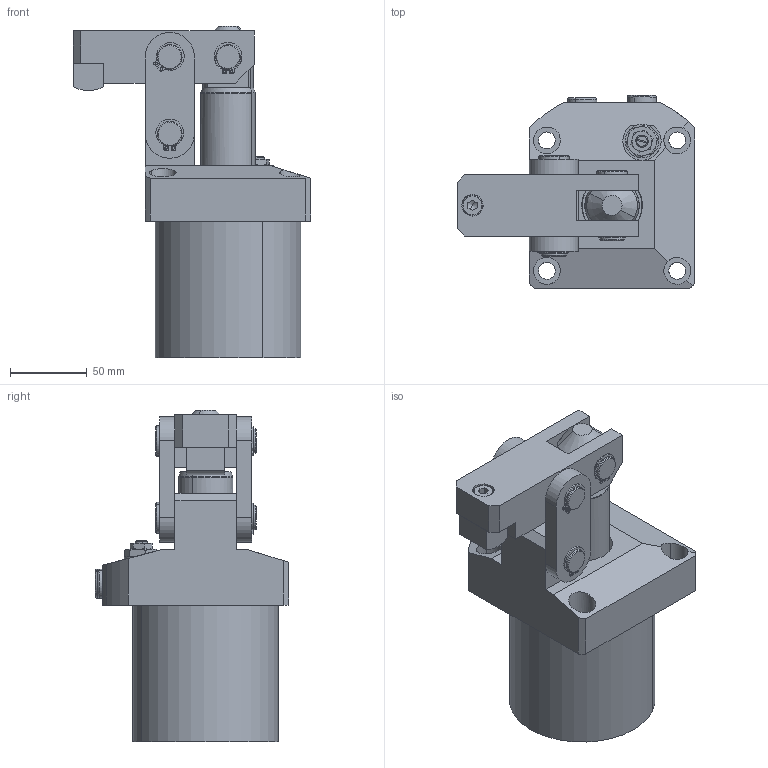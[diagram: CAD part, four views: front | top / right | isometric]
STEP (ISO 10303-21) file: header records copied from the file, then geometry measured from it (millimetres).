
FILE_DESCRIPTION(('CATIA V5 STEP Exchange'),'2;1');
FILE_NAME('C:\Documents and Settings\kjf105\바탕 화면\HGC-6311GVT_-\3D\HGC-6315GVT-RH.stp','2016-02-19T00:10:08+00:00',('none'),('none'),'CATIA Version 5 Release 19 SP 2 (IN-10)','CATIA V5 STEP AP203','none');
FILE_SCHEMA(('CONFIG_CONTROL_DESIGN'));
Length unit declared in the file: millimetre
Products named in the file (1): HGC-6315GVT-RH
Bounding box: 155 x 125.8 x 216 mm (x, y, z)
Volume: 1101994 mm3; surface area: 191367.1 mm2
Topology: 22 solids, 22 shells, 647 faces, 1509 edges, 944 vertices
Faces by surface type: cylinder 251, plane 201, cone 147, torus 48
Entity records: 18870 total; most frequent: CARTESIAN_POINT 4866, ORIENTED_EDGE 2974, DIRECTION 2427, EDGE_CURVE 1487, AXIS2_PLACEMENT_3D 1262, VERTEX_POINT 942, EDGE_LOOP 761, CIRCLE 694
